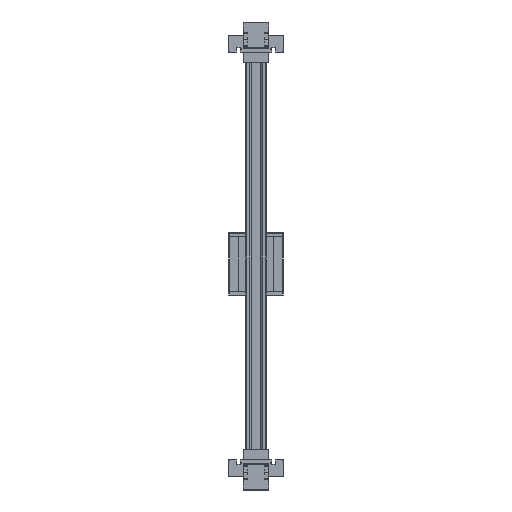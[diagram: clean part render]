
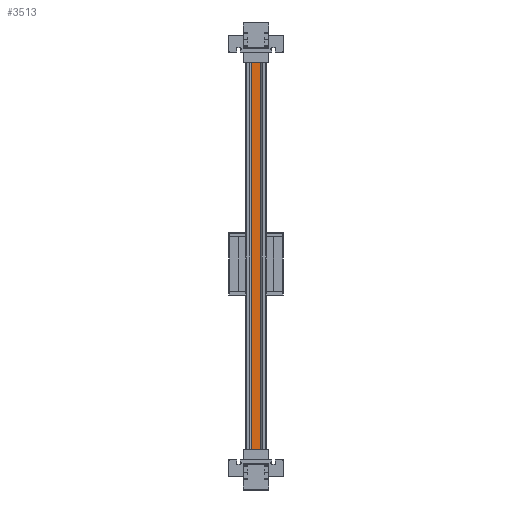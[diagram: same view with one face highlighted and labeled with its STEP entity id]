
A CAD part, front view. The second image highlights one B-rep face of the part: STEP entity #3513.
In plain terms, the highlighted planar face has unit normal (0, -1, 0).
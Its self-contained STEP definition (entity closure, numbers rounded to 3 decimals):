
#278 = EDGE_LOOP ( 'NONE', ( #14396, #24987, #7201, #22710 ) ) ;
#827 = PLANE ( 'NONE',  #8805 ) ;
#1118 = VECTOR ( 'NONE', #7800, 1000. ) ;
#1159 = VERTEX_POINT ( 'NONE', #20136 ) ;
#2498 = VERTEX_POINT ( 'NONE', #5966 ) ;
#2980 = DIRECTION ( 'NONE',  ( 0., 0., 1. ) ) ;
#3513 = ADVANCED_FACE ( 'NONE', ( #23274 ), #827, .F. ) ;
#3999 = LINE ( 'NONE', #10256, #21360 ) ;
#4091 = EDGE_CURVE ( 'NONE', #16417, #1159, #18483, .T. ) ;
#4352 = CARTESIAN_POINT ( 'NONE',  ( 0., 0., 0. ) ) ;
#5966 = CARTESIAN_POINT ( 'NONE',  ( 0., 0., -25. ) ) ;
#7201 = ORIENTED_EDGE ( 'NONE', *, *, #18575, .F. ) ;
#7800 = DIRECTION ( 'NONE',  ( -1., 0., 0. ) ) ;
#8805 = AXIS2_PLACEMENT_3D ( 'NONE', #22482, #15987, #2980 ) ;
#9034 = DIRECTION ( 'NONE',  ( -1., 0., 0. ) ) ;
#10256 = CARTESIAN_POINT ( 'NONE',  ( 1196., 0., 0. ) ) ;
#10451 = EDGE_CURVE ( 'NONE', #1159, #2498, #16387, .T. ) ;
#10609 = VECTOR ( 'NONE', #15258, 1000. ) ;
#10669 = VECTOR ( 'NONE', #9034, 1000. ) ;
#10977 = CARTESIAN_POINT ( 'NONE',  ( 1196., 0., -25. ) ) ;
#14396 = ORIENTED_EDGE ( 'NONE', *, *, #10451, .T. ) ;
#14462 = EDGE_CURVE ( 'NONE', #17522, #2498, #27979, .T. ) ;
#15258 = DIRECTION ( 'NONE',  ( 0., 0., -1. ) ) ;
#15987 = DIRECTION ( 'NONE',  ( 0., 1., 0. ) ) ;
#16387 = LINE ( 'NONE', #4352, #10609 ) ;
#16417 = VERTEX_POINT ( 'NONE', #27986 ) ;
#17522 = VERTEX_POINT ( 'NONE', #10977 ) ;
#18483 = LINE ( 'NONE', #24706, #1118 ) ;
#18575 = EDGE_CURVE ( 'NONE', #16417, #17522, #3999, .T. ) ;
#20136 = CARTESIAN_POINT ( 'NONE',  ( 0., 0., 0. ) ) ;
#21360 = VECTOR ( 'NONE', #25475, 1000. ) ;
#22080 = CARTESIAN_POINT ( 'NONE',  ( 1196., 0., -25. ) ) ;
#22482 = CARTESIAN_POINT ( 'NONE',  ( 1196., 0., 0. ) ) ;
#22710 = ORIENTED_EDGE ( 'NONE', *, *, #4091, .T. ) ;
#23274 = FACE_OUTER_BOUND ( 'NONE', #278, .T. ) ;
#24706 = CARTESIAN_POINT ( 'NONE',  ( 1196., 0., 0. ) ) ;
#24987 = ORIENTED_EDGE ( 'NONE', *, *, #14462, .F. ) ;
#25475 = DIRECTION ( 'NONE',  ( 0., 0., -1. ) ) ;
#27979 = LINE ( 'NONE', #22080, #10669 ) ;
#27986 = CARTESIAN_POINT ( 'NONE',  ( 1196., 0., 0. ) ) ;
